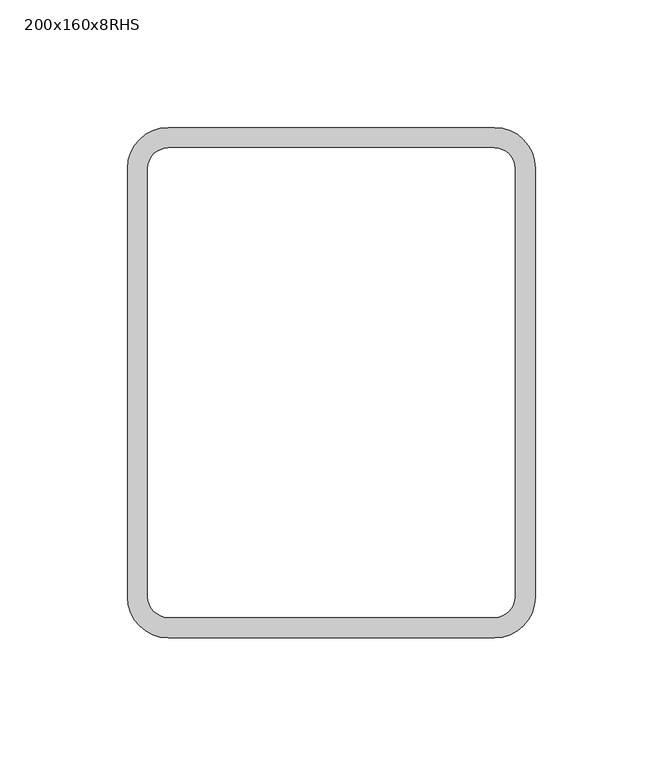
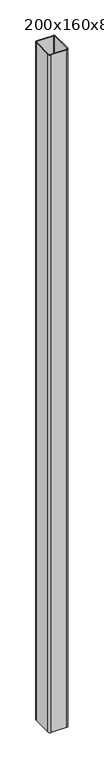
"""IFC4 building model written with IfcOpenShell, lengths in millimetres: column geometry, ППС-Прямоугольное пустотелое сечение-Колонна : 200x160x8RHS."""

import ifcopenshell
import ifcopenshell.guid

model = None  # the IFC model being written
_history = None  # IfcOwnerHistory: only IFC2X3 demands one
_inside = {}  # id of a spatial element -> (the spatial element, [elements in it])
_under = {}  # id of a project, library or spatial element -> (it, [spatial elements below it])
_declared = {}  # id of a project -> (the project, [libraries it declares])
_typed = {}  # id of a type object -> (the type object, [elements of that type])
_made_of = {}  # id of a material, layer set ... -> (it, [elements and type objects made of it])


def new_model(schema):
    """Start an empty IFC model of exactly this schema.

    Asked for "IFC4X3", IfcOpenShell would pick the latest addendum, in which some entities
    have other attributes; the version numbers below select the first issue.
    IFC2X3 requires an IfcOwnerHistory on every rooted entity: one is made here for all.
    """
    global model, _history
    if schema == "IFC4X3":
        model = ifcopenshell.file(schema_version=(4, 3, 0, 0))
    else:
        model = ifcopenshell.file(schema=schema)
    _inside.clear()
    _under.clear()
    _declared.clear()
    _typed.clear()
    _made_of.clear()
    _history = None
    if model.schema == "IFC2X3":
        org = make("IfcOrganization", Name="unknown")
        user = make(
            "IfcPersonAndOrganization",
            ThePerson=make("IfcPerson", FamilyName="unknown"),
            TheOrganization=org,
        )
        app = make(
            "IfcApplication",
            ApplicationDeveloper=org,
            Version="unknown",
            ApplicationFullName="unknown",
            ApplicationIdentifier="unknown",
        )
        _history = make(
            "IfcOwnerHistory",
            OwningUser=user,
            OwningApplication=app,
            ChangeAction="ADDED",
            CreationDate=0,
        )
    return model


def make(cls, **values):
    """One entity of the class cls with the attributes given. An attribute that is None is left unset."""
    return model.create_entity(
        cls, **{name: value for name, value in values.items() if value is not None}
    )


def rooted(cls, **values):
    """An entity with a GlobalId (a new one), such as an element, a storey or a relation."""
    return make(cls, GlobalId=ifcopenshell.guid.new(), OwnerHistory=_history, **values)


def si_unit(unit_type, name, prefix=None):
    """IfcSIUnit, for example si_unit("LENGTHUNIT", "METRE", prefix="MILLI")."""
    return make("IfcSIUnit", UnitType=unit_type, Prefix=prefix, Name=name)


def assignment(units):
    """IfcUnitAssignment: the units of a project."""
    return None if units is None else make("IfcUnitAssignment", Units=units)


def point(xyz):
    """IfcCartesianPoint."""
    return None if xyz is None else make("IfcCartesianPoint", Coordinates=xyz)


def direction(xyz):
    """IfcDirection."""
    return None if xyz is None else make("IfcDirection", DirectionRatios=xyz)


def frame(location, z_axis=None, x_axis=None):
    """IfcAxis2Placement3D, a coordinate frame: its origin and axes. An axis left out is left unset."""
    return make(
        "IfcAxis2Placement3D",
        Location=point(location),
        Axis=direction(z_axis),
        RefDirection=direction(x_axis),
    )


def frame_2d(location, x_axis=None):
    """IfcAxis2Placement2D, a coordinate frame in the plane: its origin and x axis."""
    return make(
        "IfcAxis2Placement2D", Location=point(location), RefDirection=direction(x_axis)
    )


def origin():
    """The frame at (0, 0, 0) with its axes left unset."""
    return frame((0.0, 0.0, 0.0))


def origin_with_axes():
    """The frame at (0, 0, 0) with the z axis (0, 0, 1) and the x axis (1, 0, 0) written out."""
    return frame((0.0, 0.0, 0.0), z_axis=(0.0, 0.0, 1.0), x_axis=(1.0, 0.0, 0.0))


def place(relative_to, where):
    """IfcLocalPlacement: puts the frame where relative to a parent placement (None: the world)."""
    return make(
        "IfcLocalPlacement", PlacementRelTo=relative_to, RelativePlacement=where
    )


def context(
    kind, dimensions, precision=None, world=None, true_north=None, identifier=None
):
    """IfcGeometricRepresentationContext, for example the 3D "Model" context."""
    return make(
        "IfcGeometricRepresentationContext",
        ContextIdentifier=identifier,
        ContextType=kind,
        CoordinateSpaceDimension=dimensions,
        Precision=precision,
        WorldCoordinateSystem=world,
        TrueNorth=true_north,
    )


def project(units=None, contexts=None):
    """IfcProject with its units and contexts."""
    return rooted(
        "IfcProject",
        Name="project",
        RepresentationContexts=contexts,
        UnitsInContext=assignment(units),
    )


def spatial(cls, under=None, at=None, **own):
    """A site, building, storey or space (cls), placed at a placement, below another one or the project."""
    s = rooted(cls, ObjectPlacement=at, **own)
    if under is not None:
        _under.setdefault(under.id(), (under, []))[1].append(s)
    return s


def polyline(points):
    """IfcPolyline through the points."""
    return make("IfcPolyline", Points=[point(p) for p in points])


def circle_curve(where, radius):
    """IfcCircle in the frame where."""
    return make("IfcCircle", Position=where, Radius=radius)


def trimmed(basis, trim1, trim2, sense, master):
    """IfcTrimmedCurve: the piece of a basis curve between two trims."""
    return make(
        "IfcTrimmedCurve",
        BasisCurve=basis,
        Trim1=trim1,
        Trim2=trim2,
        SenseAgreement=sense,
        MasterRepresentation=master,
    )


def segment(curve, same_sense, transition):
    """IfcCompositeCurveSegment."""
    return make(
        "IfcCompositeCurveSegment",
        Transition=transition,
        SameSense=same_sense,
        ParentCurve=curve,
    )


def composite_curve(segments, self_intersect=None):
    """IfcCompositeCurve: segments joined end to end."""
    return make("IfcCompositeCurve", Segments=segments, SelfIntersect=self_intersect)


def outline(outer, holes=None, kind="AREA"):
    """IfcArbitraryClosedProfileDef: a profile drawn as a closed curve; with holes, ...WithVoids."""
    if holes is None:
        return make("IfcArbitraryClosedProfileDef", ProfileType=kind, OuterCurve=outer)
    return make(
        "IfcArbitraryProfileDefWithVoids",
        ProfileType=kind,
        OuterCurve=outer,
        InnerCurves=holes,
    )


def extrude(swept, where, along, depth):
    """IfcExtrudedAreaSolid: the profile swept, set in the frame where, extruded along a direction by depth."""
    return make(
        "IfcExtrudedAreaSolid",
        SweptArea=swept,
        Position=where,
        ExtrudedDirection=direction(along),
        Depth=depth,
    )


def shape(context_of_items, identifier, shape_type, items):
    """IfcShapeRepresentation: the items that make up one representation, for example the "Body"."""
    return make(
        "IfcShapeRepresentation",
        ContextOfItems=context_of_items,
        RepresentationIdentifier=identifier,
        RepresentationType=shape_type,
        Items=items,
    )


def source(mapping_origin, context_of_items, identifier, shape_type, items):
    """IfcRepresentationMap: a shape defined once, which mapped items show again and again."""
    return make(
        "IfcRepresentationMap",
        MappingOrigin=mapping_origin,
        MappedRepresentation=shape(context_of_items, identifier, shape_type, items),
    )


def transform(
    local_origin,
    x_axis=None,
    y_axis=None,
    z_axis=None,
    scale=None,
    scale2=None,
    scale3=None,
    uniform=True,
):
    """IfcCartesianTransformationOperator3D, or its non-uniform kind. x_axis, y_axis, z_axis: its Axis1, 2, 3."""
    if uniform:
        return make(
            "IfcCartesianTransformationOperator3D",
            Axis1=direction(x_axis),
            Axis2=direction(y_axis),
            LocalOrigin=point(local_origin),
            Scale=scale,
            Axis3=direction(z_axis),
        )
    return make(
        "IfcCartesianTransformationOperator3DnonUniform",
        Axis1=direction(x_axis),
        Axis2=direction(y_axis),
        LocalOrigin=point(local_origin),
        Scale=scale,
        Axis3=direction(z_axis),
        Scale2=scale2,
        Scale3=scale3,
    )


def mapped(mapping_source, mapping_target):
    """IfcMappedItem: shows the shape of a source again, moved by a transform."""
    return make(
        "IfcMappedItem", MappingSource=mapping_source, MappingTarget=mapping_target
    )


def made_of(thing, what):
    """Note that an element or type object is made of a material, layer set ...; save() writes the relation."""
    if what is not None:
        _made_of.setdefault(what.id(), (what, []))[1].append(thing)
    return thing


def element(
    cls,
    number,
    at=None,
    inside=None,
    cuts=None,
    type_object=None,
    material=None,
    context=None,
    identifier="Body",
    shape_type=None,
    held_by="IfcProductDefinitionShape",
    body=None,
    shapes=None,
    **own,
):
    """One element of the class cls, such as IfcWall. Its Tag is "e" and its number.

    at: its placement. inside: the storey or other place that contains it. cuts: it is an
    opening in that element (IfcRelVoidsElement). A single representation is given by context,
    identifier, shape_type and body (its items); several are given by shapes. held_by: the class
    of the entity that holds the representations. save() writes the other relations.
    """
    e = rooted(cls, Tag="e%d" % number, ObjectPlacement=at, **own)
    if body is not None:
        shapes = [shape(context, identifier, shape_type, body)]
    if shapes is not None:
        e.Representation = make(held_by, Representations=shapes)
    if inside is not None:
        _inside.setdefault(inside.id(), (inside, []))[1].append(e)
    if cuts is not None:
        rooted(
            "IfcRelVoidsElement", RelatingBuildingElement=cuts, RelatedOpeningElement=e
        )
    if type_object is not None:
        _typed.setdefault(type_object.id(), (type_object, []))[1].append(e)
    return made_of(e, material)


def aggregate(whole, parts):
    """IfcRelAggregates: a whole, such as a stair, and the parts it consists of."""
    return rooted("IfcRelAggregates", RelatingObject=whole, RelatedObjects=parts)


def save(model, path):
    """Write the relations noted so far, then the file.

    IfcRelAggregates (storeys below a building ...), IfcRelContainedInSpatialStructure (elements
    in a storey), IfcRelDefinesByType, IfcRelAssociatesMaterial and IfcRelDeclares: one each for
    every whole, place, type object, material and project.
    """
    for whole, parts in _under.values():
        aggregate(whole, parts)
    for where, things in _inside.values():
        rooted(
            "IfcRelContainedInSpatialStructure",
            RelatedElements=things,
            RelatingStructure=where,
        )
    for kind, things in _typed.values():
        rooted("IfcRelDefinesByType", RelatedObjects=things, RelatingType=kind)
    for what, things in _made_of.values():
        rooted("IfcRelAssociatesMaterial", RelatedObjects=things, RelatingMaterial=what)
    for by, libraries in _declared.values():
        rooted("IfcRelDeclares", RelatingContext=by, RelatedDefinitions=libraries)
    model.write(path)


def column_200x160x8rhs_5398ac9a(model_context):
    return source(origin(), model_context, "Body", "SweptSolid", [
        extrude(outline(composite_curve([segment(trimmed(circle_curve(frame_2d((64.0, 84.0)), 16.0), [point((64.0, 100.0))], [point((80.0, 84.0))], False, "CARTESIAN"), True, "CONTINUOUS"), segment(polyline([(80.0, 84.0), (80.0, -84.0)]), True, "CONTINUOUS"), segment(trimmed(circle_curve(frame_2d((64.0, -84.0)), 16.0), [point((80.0, -84.0))], [point((64.0, -100.0))], False, "CARTESIAN"), True, "CONTINUOUS"), segment(polyline([(64.0, -100.0), (-64.0, -100.0)]), True, "CONTINUOUS"), segment(trimmed(circle_curve(frame_2d((-64.0, -84.0)), 16.0), [point((-64.0, -100.0))], [point((-80.0, -84.0))], False, "CARTESIAN"), True, "CONTINUOUS"), segment(polyline([(-80.0, -84.0), (-80.0, 84.0)]), True, "CONTINUOUS"), segment(trimmed(circle_curve(frame_2d((-64.0, 84.0)), 16.0), [point((-80.0, 84.0))], [point((-64.0, 100.0))], False, "CARTESIAN"), True, "CONTINUOUS"), segment(polyline([(-64.0, 100.0), (64.0, 100.0)]), True, "CONTINUOUS")], self_intersect=False), holes=[composite_curve([segment(polyline([(64.0, 92.0), (-64.0, 92.0)]), True, "CONTINUOUS"), segment(trimmed(circle_curve(frame_2d((-64.0, 84.0)), 8.0), [point((-64.0, 92.0))], [point((-72.0, 84.0))], True, "CARTESIAN"), True, "CONTINUOUS"), segment(polyline([(-72.0, 84.0), (-72.0, -84.0)]), True, "CONTINUOUS"), segment(trimmed(circle_curve(frame_2d((-64.0, -84.0)), 8.0), [point((-72.0, -84.0))], [point((-64.0, -92.0))], True, "CARTESIAN"), True, "CONTINUOUS"), segment(polyline([(-64.0, -92.0), (64.0, -92.0)]), True, "CONTINUOUS"), segment(trimmed(circle_curve(frame_2d((64.0, -84.0)), 8.0), [point((64.0, -92.0))], [point((72.0, -84.0))], True, "CARTESIAN"), True, "CONTINUOUS"), segment(polyline([(72.0, -84.0), (72.0, 84.0)]), True, "CONTINUOUS"), segment(trimmed(circle_curve(frame_2d((64.0, 84.0)), 8.0), [point((72.0, 84.0))], [point((64.0, 92.0))], True, "CARTESIAN"), True, "CONTINUOUS")], self_intersect=False)]), origin_with_axes(), (0.0, 0.0, 1.0), 5825.0),
    ])


if __name__ == "__main__":
    model = new_model("IFC4")
    model_context = context("Model", 3, world=origin())
    ifc_project = project(units=[si_unit("LENGTHUNIT", "METRE", prefix="MILLI")], contexts=[model_context])
    site = spatial("IfcSite", under=ifc_project)
    building = spatial("IfcBuilding", under=site)
    placement = place(None, origin())
    column_200x160x8rhs_shape = column_200x160x8rhs_5398ac9a(model_context)
    element("IfcColumn", 1, ObjectType="ППС-Прямоугольное пустотелое сечение-Колонна : 200x160x8RHS", at=placement, inside=building, context=model_context, shape_type="MappedRepresentation", body=[
        mapped(column_200x160x8rhs_shape, transform((0.0, 0.0, 0.0), x_axis=(1.0, 0.0, 0.0), y_axis=(0.0, 1.0, 0.0), z_axis=(0.0, 0.0, 1.0))),
    ])
    save(model, "model.ifc")
